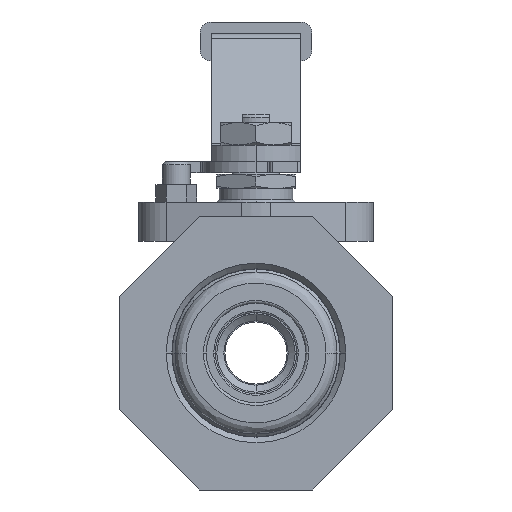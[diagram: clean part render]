
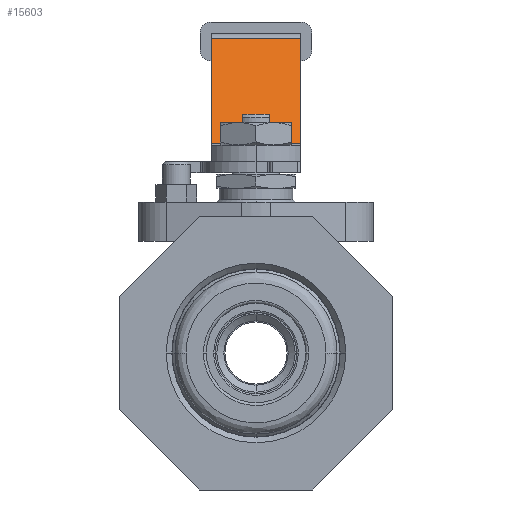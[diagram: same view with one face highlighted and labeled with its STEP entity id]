
A CAD part, left-side view. The second image highlights one B-rep face of the part: STEP entity #15603.
In plain terms, the highlighted planar face has unit normal (-0.707, 0, 0.707).
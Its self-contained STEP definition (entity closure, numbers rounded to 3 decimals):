
#14873 = PLANE('',#14874);
#14874 = AXIS2_PLACEMENT_3D('',#14875,#14876,#14877);
#14875 = CARTESIAN_POINT('',(-11.967,-22.959,
    48.552));
#14876 = DIRECTION('',(0.,-1.,0.));
#14877 = DIRECTION('',(1.,0.,0.));
#15008 = EDGE_CURVE('',#15009,#15011,#15013,.T.);
#15009 = VERTEX_POINT('',#15010);
#15010 = CARTESIAN_POINT('',(9.826,-38.959,
    51.845));
#15011 = VERTEX_POINT('',#15012);
#15012 = CARTESIAN_POINT('',(9.826,-22.959,
    51.845));
#15013 = SURFACE_CURVE('',#15014,(#15018,#15030),.PCURVE_S1.);
#15014 = LINE('',#15015,#15016);
#15015 = CARTESIAN_POINT('',(9.826,-38.959,
    51.845));
#15016 = VECTOR('',#15017,1.);
#15017 = DIRECTION('',(0.,1.,0.));
#15018 = PCURVE('',#15019,#15024);
#15019 = CYLINDRICAL_SURFACE('',#15020,1.);
#15020 = AXIS2_PLACEMENT_3D('',#15021,#15022,#15023);
#15021 = CARTESIAN_POINT('',(9.119,-38.959,
    52.552));
#15022 = DIRECTION('',(0.,-1.,0.));
#15023 = DIRECTION('',(1.,0.,0.));
#15024 = DEFINITIONAL_REPRESENTATION('',(#15025),#15029);
#15025 = LINE('',#15026,#15027);
#15026 = CARTESIAN_POINT('',(5.498,0.));
#15027 = VECTOR('',#15028,1.);
#15028 = DIRECTION('',(0.,-1.));
#15029 = ( GEOMETRIC_REPRESENTATION_CONTEXT(2) 
PARAMETRIC_REPRESENTATION_CONTEXT() REPRESENTATION_CONTEXT('2D SPACE',''
  ) );
#15030 = PCURVE('',#15031,#15036);
#15031 = PLANE('',#15032);
#15032 = AXIS2_PLACEMENT_3D('',#15033,#15034,#15035);
#15033 = CARTESIAN_POINT('',(9.533,-38.959,
    51.552));
#15034 = DIRECTION('',(0.707,0.,
    -0.707));
#15035 = DIRECTION('',(0.707,0.,0.707
    ));
#15036 = DEFINITIONAL_REPRESENTATION('',(#15037),#15041);
#15037 = LINE('',#15038,#15039);
#15038 = CARTESIAN_POINT('',(0.414,0.));
#15039 = VECTOR('',#15040,1.);
#15040 = DIRECTION('',(0.,-1.));
#15041 = ( GEOMETRIC_REPRESENTATION_CONTEXT(2) 
PARAMETRIC_REPRESENTATION_CONTEXT() REPRESENTATION_CONTEXT('2D SPACE',''
  ) );
#15105 = PLANE('',#15106);
#15106 = AXIS2_PLACEMENT_3D('',#15107,#15108,#15109);
#15107 = CARTESIAN_POINT('',(-11.967,-38.959,
    48.552));
#15108 = DIRECTION('',(0.,-1.,0.));
#15109 = DIRECTION('',(1.,0.,0.));
#15603 = ADVANCED_FACE('',(#15604),#15031,.F.);
#15604 = FACE_BOUND('',#15605,.T.);
#15605 = EDGE_LOOP('',(#15606,#15607,#15630,#15658));
#15606 = ORIENTED_EDGE('',*,*,#15008,.F.);
#15607 = ORIENTED_EDGE('',*,*,#15608,.F.);
#15608 = EDGE_CURVE('',#15609,#15009,#15611,.T.);
#15609 = VERTEX_POINT('',#15610);
#15610 = CARTESIAN_POINT('',(28.654,-38.959,
    70.673));
#15611 = SURFACE_CURVE('',#15612,(#15616,#15623),.PCURVE_S1.);
#15612 = LINE('',#15613,#15614);
#15613 = CARTESIAN_POINT('',(28.654,-38.959,
    70.673));
#15614 = VECTOR('',#15615,1.);
#15615 = DIRECTION('',(-0.707,0.,-0.707));
#15616 = PCURVE('',#15031,#15617);
#15617 = DEFINITIONAL_REPRESENTATION('',(#15618),#15622);
#15618 = LINE('',#15619,#15620);
#15619 = CARTESIAN_POINT('',(27.042,0.));
#15620 = VECTOR('',#15621,1.);
#15621 = DIRECTION('',(-1.,0.));
#15622 = ( GEOMETRIC_REPRESENTATION_CONTEXT(2) 
PARAMETRIC_REPRESENTATION_CONTEXT() REPRESENTATION_CONTEXT('2D SPACE',''
  ) );
#15623 = PCURVE('',#15105,#15624);
#15624 = DEFINITIONAL_REPRESENTATION('',(#15625),#15629);
#15625 = LINE('',#15626,#15627);
#15626 = CARTESIAN_POINT('',(40.621,22.121));
#15627 = VECTOR('',#15628,1.);
#15628 = DIRECTION('',(-0.707,-0.707));
#15629 = ( GEOMETRIC_REPRESENTATION_CONTEXT(2) 
PARAMETRIC_REPRESENTATION_CONTEXT() REPRESENTATION_CONTEXT('2D SPACE',''
  ) );
#15630 = ORIENTED_EDGE('',*,*,#15631,.F.);
#15631 = EDGE_CURVE('',#15632,#15609,#15634,.T.);
#15632 = VERTEX_POINT('',#15633);
#15633 = CARTESIAN_POINT('',(28.654,-22.959,
    70.673));
#15634 = SURFACE_CURVE('',#15635,(#15639,#15646),.PCURVE_S1.);
#15635 = LINE('',#15636,#15637);
#15636 = CARTESIAN_POINT('',(28.654,-38.959,
    70.673));
#15637 = VECTOR('',#15638,1.);
#15638 = DIRECTION('',(0.,-1.,0.));
#15639 = PCURVE('',#15031,#15640);
#15640 = DEFINITIONAL_REPRESENTATION('',(#15641),#15645);
#15641 = LINE('',#15642,#15643);
#15642 = CARTESIAN_POINT('',(27.042,0.));
#15643 = VECTOR('',#15644,1.);
#15644 = DIRECTION('',(0.,1.));
#15645 = ( GEOMETRIC_REPRESENTATION_CONTEXT(2) 
PARAMETRIC_REPRESENTATION_CONTEXT() REPRESENTATION_CONTEXT('2D SPACE',''
  ) );
#15646 = PCURVE('',#15647,#15652);
#15647 = CYLINDRICAL_SURFACE('',#15648,3.);
#15648 = AXIS2_PLACEMENT_3D('',#15649,#15650,#15651);
#15649 = CARTESIAN_POINT('',(30.776,-38.959,
    68.552));
#15650 = DIRECTION('',(0.,1.,0.));
#15651 = DIRECTION('',(-1.,0.,0.));
#15652 = DEFINITIONAL_REPRESENTATION('',(#15653),#15657);
#15653 = LINE('',#15654,#15655);
#15654 = CARTESIAN_POINT('',(0.785,0.));
#15655 = VECTOR('',#15656,1.);
#15656 = DIRECTION('',(0.,-1.));
#15657 = ( GEOMETRIC_REPRESENTATION_CONTEXT(2) 
PARAMETRIC_REPRESENTATION_CONTEXT() REPRESENTATION_CONTEXT('2D SPACE',''
  ) );
#15658 = ORIENTED_EDGE('',*,*,#15659,.T.);
#15659 = EDGE_CURVE('',#15632,#15011,#15660,.T.);
#15660 = SURFACE_CURVE('',#15661,(#15665,#15672),.PCURVE_S1.);
#15661 = LINE('',#15662,#15663);
#15662 = CARTESIAN_POINT('',(28.654,-22.959,
    70.673));
#15663 = VECTOR('',#15664,1.);
#15664 = DIRECTION('',(-0.707,0.,-0.707));
#15665 = PCURVE('',#15031,#15666);
#15666 = DEFINITIONAL_REPRESENTATION('',(#15667),#15671);
#15667 = LINE('',#15668,#15669);
#15668 = CARTESIAN_POINT('',(27.042,-16.));
#15669 = VECTOR('',#15670,1.);
#15670 = DIRECTION('',(-1.,0.));
#15671 = ( GEOMETRIC_REPRESENTATION_CONTEXT(2) 
PARAMETRIC_REPRESENTATION_CONTEXT() REPRESENTATION_CONTEXT('2D SPACE',''
  ) );
#15672 = PCURVE('',#14873,#15673);
#15673 = DEFINITIONAL_REPRESENTATION('',(#15674),#15678);
#15674 = LINE('',#15675,#15676);
#15675 = CARTESIAN_POINT('',(40.621,22.121));
#15676 = VECTOR('',#15677,1.);
#15677 = DIRECTION('',(-0.707,-0.707));
#15678 = ( GEOMETRIC_REPRESENTATION_CONTEXT(2) 
PARAMETRIC_REPRESENTATION_CONTEXT() REPRESENTATION_CONTEXT('2D SPACE',''
  ) );
